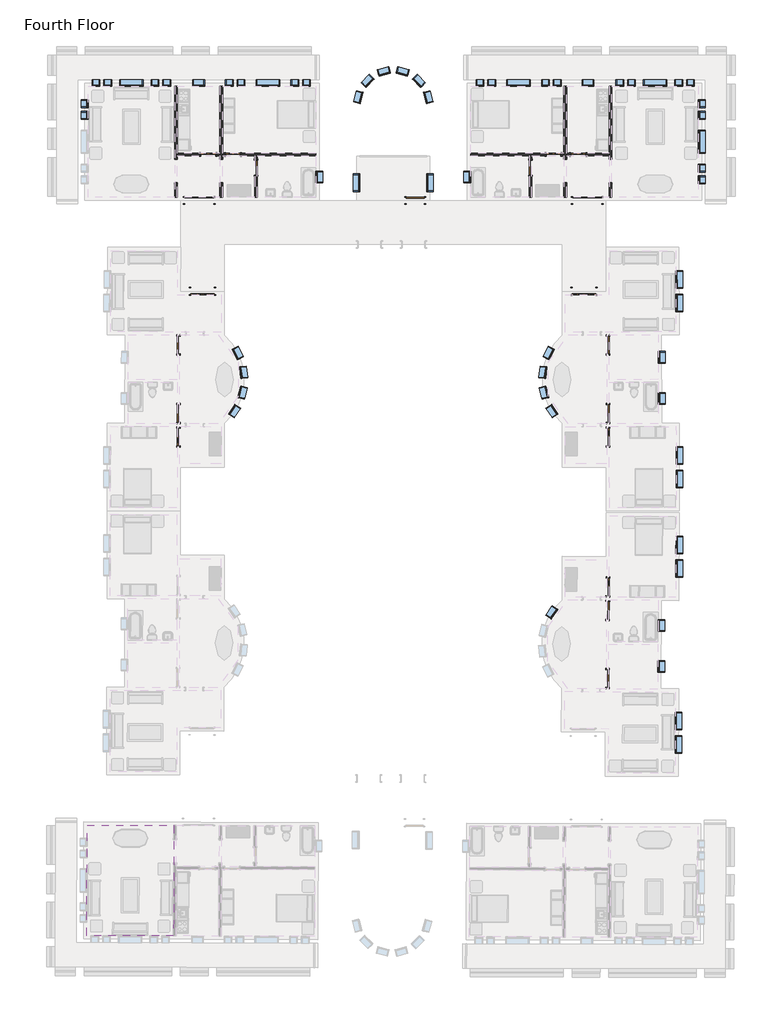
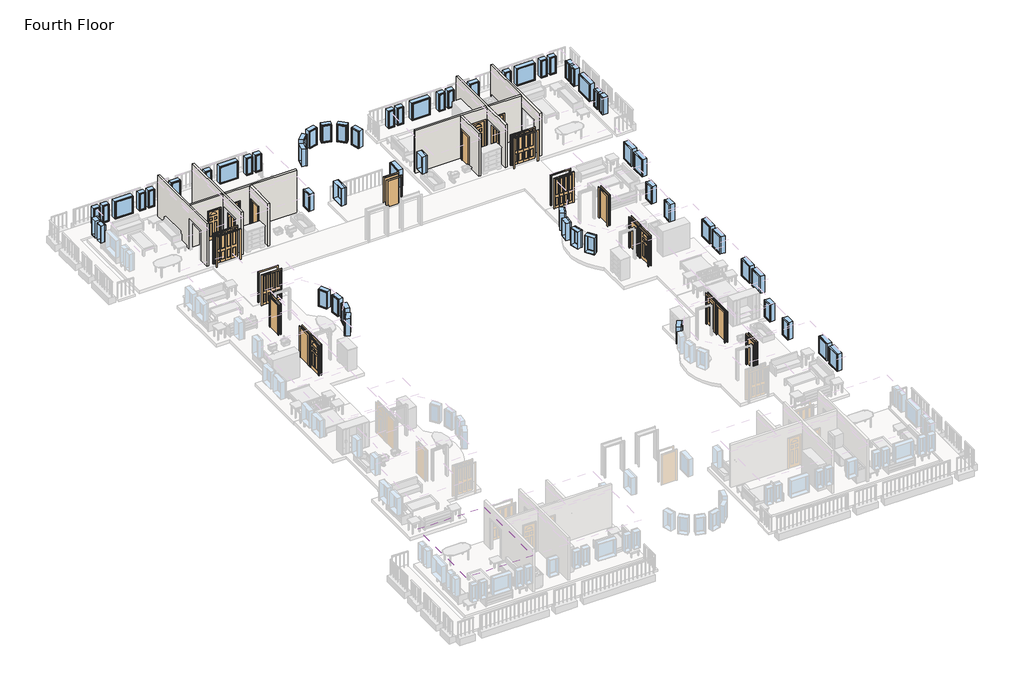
# One storey, part 2 of 8: 60 windows, 20 doors, 8 walls, 1 covering.
"""IFC4 building model written with IfcOpenShell, lengths in millimetres."""

from ifc_helpers import new_model, si_unit, frame, origin, place, context, project, spatial, polyline, outline, extrude, faceted_brep, transform, mapped, element, save
from components import m_bifold_4_panel_1220_x_2134mm_46e1cad3, m_bifold_4_panel_1220_x_2134mm_cde6dea2, m_bifold_4_panel_1525_x_2134mm_1ddae71f, m_bifold_4_panel_1525_x_2134mm_ac598c8b, m_single_decorative_2_0762_x_2134mm_0d0af7cb, m_single_decorative_2_0762_x_2134mm_2fe67c8e, m_single_decorative_2_0915_x_2134mm_cc9a65e4, m_single_decorative_2_0915_x_2134mm_0b11df3f, m_single_flush_0762_x_2134mm_0d89e411, m_single_flush_0762_x_2134mm_a28375c7, m_single_flush_0915_x_2134mm_1eac8bb1, m_single_flush_0915_x_2134mm_ab9b6334, m_single_flush_0915_x_2134mm_08e0827a, m_fixed_0406_x_1220mm_57fee329, m_fixed_0406_x_1220mm_85c28f40, m_fixed_0610_x_1220mm_2c28ef1d, m_fixed_0610_x_1220mm_1ea27827, m_fixed_0915_x_1220mm_bde29121, m_fixed_0915_x_1220mm_2a2509e7, m_fixed_1220_x_1220mm_e08ff7af, m_fixed_1220_x_1220mm_8f5f8ad3

model = new_model("IFC4")

# Units and contexts
model_context = context("Model", 3, world=origin())
ifc_project = project(units=[si_unit("LENGTHUNIT", "METRE", prefix="MILLI")], contexts=[model_context])

# Site, building, storey
site = spatial("IfcSite", under=ifc_project)
building = spatial("IfcBuilding", under=site)
storey = spatial("IfcBuildingStorey", under=building, Name="Fourth Floor", Elevation=9144.0)

# Covering
placement = place(None, origin())
element("IfcCovering", 1, ObjectType="Plain", at=placement, inside=storey, context=model_context, shape_type="SweptSolid", body=[
    extrude(outline(polyline([(-30363.8608487, -35997.2316011), (-30380.4946793, -41743.2075247), (-34884.7258061, -41730.168379), (-34868.0919755, -35984.1924553), (-30363.8608487, -35997.2316011)])), frame((0.0, 0.0, 11734.0), z_axis=(0.0, 0.0, 1.0), x_axis=(1.0, 0.0, 0.0)), (0.0, 0.0, 1.0), 57.0),
])

# Doors
m_bifold_4_panel_1220_x_2134mm_shape = m_bifold_4_panel_1220_x_2134mm_46e1cad3(model_context)
element("IfcDoor", 2, ObjectType="M_Bifold-4 Panel : 1220 x 2134mm", at=placement, inside=storey, context=model_context, shape_type="MappedRepresentation", body=[
    mapped(m_bifold_4_panel_1220_x_2134mm_shape, transform((-28863.3459343, -8240.6820888, 9144.0), x_axis=(-0.9999989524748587, 0.0014474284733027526, 0.0), y_axis=(-0.0014474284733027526, -0.9999989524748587, 0.0), z_axis=(0.0, 0.0, 1.0))),
])
m_bifold_4_panel_1220_x_2134mm_2_shape = m_bifold_4_panel_1220_x_2134mm_cde6dea2(model_context)
element("IfcDoor", 3, ObjectType="M_Bifold-4 Panel : 1220 x 2134mm", at=placement, inside=storey, context=model_context, shape_type="MappedRepresentation", body=[
    mapped(m_bifold_4_panel_1220_x_2134mm_2_shape, transform((-9050.8373063, -8240.6820888, 9144.0), x_axis=(0.9999989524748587, 0.0014474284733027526, 0.0), y_axis=(-0.0014474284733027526, 0.9999989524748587, 0.0), z_axis=(0.0, 0.0, 1.0))),
])
m_bifold_4_panel_1525_x_2134mm_shape = m_bifold_4_panel_1525_x_2134mm_1ddae71f(model_context)
element("IfcDoor", 4, ObjectType="M_Bifold-4 Panel : 1525 x 2134mm", at=placement, inside=storey, context=model_context, shape_type="MappedRepresentation", body=[
    mapped(m_bifold_4_panel_1525_x_2134mm_shape, transform((-8876.0916203, -3514.8811614, 9144.0), x_axis=(1.0, 0.0, 0.0), y_axis=(0.0, 1.0, 0.0), z_axis=(0.0, 0.0, 1.0))),
])
m_bifold_4_panel_1525_x_2134mm_2_shape = m_bifold_4_panel_1525_x_2134mm_ac598c8b(model_context)
element("IfcDoor", 5, ObjectType="M_Bifold-4 Panel : 1525 x 2134mm", at=placement, inside=storey, context=model_context, shape_type="MappedRepresentation", body=[
    mapped(m_bifold_4_panel_1525_x_2134mm_2_shape, transform((-29038.0916203, -3514.8811614, 9144.0), x_axis=(-1.0, 0.0, 0.0), y_axis=(0.0, -1.0, 0.0), z_axis=(0.0, 0.0, 1.0))),
])
m_single_decorative_2_0762_x_2134mm_shape = m_single_decorative_2_0762_x_2134mm_0d0af7cb(model_context)
element("IfcDoor", 6, ObjectType="M_Single-Decorative 2 : 0762 x 2134mm", at=placement, inside=storey, context=model_context, shape_type="MappedRepresentation", body=[
    mapped(m_single_decorative_2_0762_x_2134mm_shape, transform((-9342.3416203, -1138.1311614, 9144.0), x_axis=(-1.0, 0.0, 0.0), y_axis=(0.0, -1.0, 0.0), z_axis=(0.0, 0.0, 1.0))),
])
element("IfcDoor", 7, ObjectType="M_Single-Decorative 2 : 0762 x 2134mm", at=placement, inside=storey, context=model_context, shape_type="MappedRepresentation", body=[
    mapped(m_single_decorative_2_0762_x_2134mm_shape, transform((-27285.0916203, -1138.1311614, 9144.0), x_axis=(-1.0, 0.0, 0.0), y_axis=(0.0, -1.0, 0.0), z_axis=(0.0, 0.0, 1.0))),
])
m_single_decorative_2_0762_x_2134mm_2_shape = m_single_decorative_2_0762_x_2134mm_2fe67c8e(model_context)
element("IfcDoor", 8, ObjectType="M_Single-Decorative 2 : 0762 x 2134mm", at=placement, inside=storey, context=model_context, shape_type="MappedRepresentation", body=[
    mapped(m_single_decorative_2_0762_x_2134mm_2_shape, transform((-10629.0916203, -1138.1311614, 9144.0), x_axis=(1.0, 0.0, 0.0), y_axis=(0.0, 1.0, 0.0), z_axis=(0.0, 0.0, 1.0))),
])
element("IfcDoor", 9, ObjectType="M_Single-Decorative 2 : 0762 x 2134mm", at=placement, inside=storey, context=model_context, shape_type="MappedRepresentation", body=[
    mapped(m_single_decorative_2_0762_x_2134mm_2_shape, transform((-28571.8416203, -1138.1311614, 9144.0), x_axis=(1.0, 0.0, 0.0), y_axis=(0.0, 1.0, 0.0), z_axis=(0.0, 0.0, 1.0))),
])
m_single_decorative_2_0915_x_2134mm_shape = m_single_decorative_2_0915_x_2134mm_cc9a65e4(model_context)
element("IfcDoor", 10, ObjectType="M_Single-Decorative 2 : 0915 x 2134mm", at=placement, inside=storey, context=model_context, shape_type="MappedRepresentation", body=[
    mapped(m_single_decorative_2_0915_x_2134mm_shape, transform((-30117.2933431, -15803.1250115, 9144.0), x_axis=(0.0014474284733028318, 0.9999989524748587, 0.0), y_axis=(-0.9999989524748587, 0.0014474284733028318, 0.0), z_axis=(0.0, 0.0, 1.0))),
])
element("IfcDoor", 11, ObjectType="M_Single-Decorative 2 : 0915 x 2134mm", at=placement, inside=storey, context=model_context, shape_type="MappedRepresentation", body=[
    mapped(m_single_decorative_2_0915_x_2134mm_shape, transform((-7808.1742155, -23599.2312198, 9144.0), x_axis=(-0.004342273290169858, -0.9999905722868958, 0.0), y_axis=(0.9999905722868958, -0.004342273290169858, 0.0), z_axis=(0.0, 0.0, 1.0))),
])
m_single_decorative_2_0915_x_2134mm_2_shape = m_single_decorative_2_0915_x_2134mm_0b11df3f(model_context)
element("IfcDoor", 12, ObjectType="M_Single-Decorative 2 : 0915 x 2134mm", at=placement, inside=storey, context=model_context, shape_type="MappedRepresentation", body=[
    mapped(m_single_decorative_2_0915_x_2134mm_2_shape, transform((-7796.8898976, -15803.1250115, 9144.0), x_axis=(-0.0014474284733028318, 0.9999989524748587, 0.0), y_axis=(-0.9999989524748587, -0.0014474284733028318, 0.0), z_axis=(0.0, 0.0, 1.0))),
])
m_single_flush_0762_x_2134mm_shape = m_single_flush_0762_x_2134mm_0d89e411(model_context)
element("IfcDoor", 13, ObjectType="M_Single-Flush : 0762 x 2134mm", at=placement, inside=storey, context=model_context, shape_type="MappedRepresentation", body=[
    mapped(m_single_flush_0762_x_2134mm_shape, transform((-11819.5916203, -1815.8811614, 9144.0), x_axis=(0.0, 1.0, 0.0), y_axis=(-1.0, 0.0, 0.0), z_axis=(0.0, 0.0, 1.0))),
])
m_single_flush_0762_x_2134mm_2_shape = m_single_flush_0762_x_2134mm_a28375c7(model_context)
element("IfcDoor", 14, ObjectType="M_Single-Flush : 0762 x 2134mm", at=placement, inside=storey, context=model_context, shape_type="MappedRepresentation", body=[
    mapped(m_single_flush_0762_x_2134mm_2_shape, transform((-26094.5916203, -1815.8811614, 9144.0), x_axis=(0.0, 1.0, 0.0), y_axis=(-1.0, 0.0, 0.0), z_axis=(0.0, 0.0, 1.0))),
])
m_single_flush_0915_x_2134mm_shape = m_single_flush_0915_x_2134mm_1eac8bb1(model_context)
element("IfcDoor", 15, ObjectType="M_Single-Flush : 0915 x 2134mm", at=placement, inside=storey, context=model_context, shape_type="MappedRepresentation", body=[
    mapped(m_single_flush_0915_x_2134mm_shape, transform((-17814.0916203, -3514.8811614, 9144.0), x_axis=(1.0, 0.0, 0.0), y_axis=(0.0, 1.0, 0.0), z_axis=(0.0, 0.0, 1.0))),
])
m_single_flush_0915_x_2134mm_2_shape = m_single_flush_0915_x_2134mm_ab9b6334(model_context)
element("IfcDoor", 16, ObjectType="M_Single-Flush : 0915 x 2134mm", at=placement, inside=storey, context=model_context, shape_type="MappedRepresentation", body=[
    mapped(m_single_flush_0915_x_2134mm_2_shape, transform((-7803.7915984, -11034.8800064, 9144.0), x_axis=(-0.0014474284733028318, 0.9999989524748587, 0.0), y_axis=(-0.9999989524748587, -0.0014474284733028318, 0.0), z_axis=(0.0, 0.0, 1.0))),
])
element("IfcDoor", 17, ObjectType="M_Single-Flush : 0915 x 2134mm", at=placement, inside=storey, context=model_context, shape_type="MappedRepresentation", body=[
    mapped(m_single_flush_0915_x_2134mm_2_shape, transform((-30115.5274803, -14583.1262895, 9144.0), x_axis=(-0.0014474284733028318, -0.9999989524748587, 0.0), y_axis=(0.9999989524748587, -0.0014474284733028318, 0.0), z_axis=(0.0, 0.0, 1.0))),
])
element("IfcDoor", 18, ObjectType="M_Single-Flush : 0915 x 2134mm", at=placement, inside=storey, context=model_context, shape_type="MappedRepresentation", body=[
    mapped(m_single_flush_0915_x_2134mm_2_shape, transform((-7813.4717889, -24819.219718, 9144.0), x_axis=(0.004342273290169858, 0.9999905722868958, 0.0), y_axis=(-0.9999905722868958, 0.004342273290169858, 0.0), z_axis=(0.0, 0.0, 1.0))),
])
m_single_flush_0915_x_2134mm_3_shape = m_single_flush_0915_x_2134mm_08e0827a(model_context)
element("IfcDoor", 19, ObjectType="M_Single-Flush : 0915 x 2134mm", at=placement, inside=storey, context=model_context, shape_type="MappedRepresentation", body=[
    mapped(m_single_flush_0915_x_2134mm_3_shape, transform((-7798.6557603, -14583.1262895, 9144.0), x_axis=(0.0014474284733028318, -0.9999989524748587, 0.0), y_axis=(0.9999989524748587, 0.0014474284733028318, 0.0), z_axis=(0.0, 0.0, 1.0))),
])
element("IfcDoor", 20, ObjectType="M_Single-Flush : 0915 x 2134mm", at=placement, inside=storey, context=model_context, shape_type="MappedRepresentation", body=[
    mapped(m_single_flush_0915_x_2134mm_3_shape, transform((-30110.3916422, -11034.8800064, 9144.0), x_axis=(0.0014474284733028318, 0.9999989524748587, 0.0), y_axis=(-0.9999989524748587, 0.0014474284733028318, 0.0), z_axis=(0.0, 0.0, 1.0))),
])
element("IfcDoor", 21, ObjectType="M_Single-Flush : 0915 x 2134mm", at=placement, inside=storey, context=model_context, shape_type="MappedRepresentation", body=[
    mapped(m_single_flush_0915_x_2134mm_3_shape, transform((-7828.8792601, -28367.4362661, 9144.0), x_axis=(-0.004342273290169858, -0.9999905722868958, 0.0), y_axis=(0.9999905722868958, -0.004342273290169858, 0.0), z_axis=(0.0, 0.0, 1.0))),
])

# Walls
element("IfcWall", 22, ObjectType="Interior - 135mm Partition (2-hr)", at=placement, inside=storey, context=model_context, shape_type="Brep", body=[
    faceted_brep([(-7733.0916203, 2406.1188386, 9144.0), (-7733.0916203, -1070.3811614, 9144.0), (-7733.0916203, -1205.8811614, 9144.0), (-7733.0916203, -1380.8811614, 9144.0), (-7733.0916203, -1380.8811614, 11278.0), (-7733.0916203, -2600.8811614, 11278.0), (-7733.0916203, -2600.8811614, 9144.0), (-7733.0916203, -3339.8811614, 9144.0), (-7733.0916203, -3339.8811614, 12192.0), (-7733.0916203, -1205.8811614, 12192.0), (-7733.0916203, -1070.3811614, 12192.0), (-7733.0916203, 2406.1188386, 12192.0), (-7597.5916203, -1380.8811614, 11278.0), (-7597.5916203, -1380.8811614, 9144.0), (-7597.5916203, 2406.1188386, 9144.0), (-7597.5916203, 2406.1188386, 12192.0), (-7597.5916203, -3339.8811614, 12192.0), (-7597.5916203, -3339.8811614, 9144.0), (-7597.5916203, -2600.8811614, 9144.0), (-7597.5916203, -2600.8811614, 11278.0)], [[[0, 1, 2, 3, 4, 5, 6, 7, 8, 9, 10, 11]], [[12, 13, 14, 15, 16, 17, 18, 19]], [[18, 17, 7, 6]], [[14, 13, 3, 2, 1, 0]], [[11, 10, 9, 8, 16, 15]], [[6, 5, 19, 18]], [[4, 3, 13, 12]], [[5, 4, 12, 19]], [[8, 7, 17, 16]], [[0, 11, 15, 14]]]),
])
element("IfcWall", 23, ObjectType="Interior - 135mm Partition (2-hr)", at=placement, inside=storey, context=model_context, shape_type="Brep", body=[
    faceted_brep([(-10086.8416203, -2600.8811614, 11278.0), (-10086.8416203, -2600.8811614, 9144.0), (-10086.8416203, -3339.8811614, 9144.0), (-10086.8416203, -3339.8811614, 12192.0), (-10086.8416203, -1205.8811614, 12192.0), (-10086.8416203, -1070.3811614, 12192.0), (-10086.8416203, 2406.1188386, 12192.0), (-10086.8416203, 2406.1188386, 9144.0), (-10086.8416203, -1070.3811614, 9144.0), (-10086.8416203, -1205.8811614, 9144.0), (-10086.8416203, -1380.8811614, 9144.0), (-10086.8416203, -1380.8811614, 11278.0), (-9951.3416203, -3339.8811614, 9144.0), (-9951.3416203, -2600.8811614, 9144.0), (-9951.3416203, -2600.8811614, 11278.0), (-9951.3416203, -1380.8811614, 11278.0), (-9951.3416203, -1380.8811614, 9144.0), (-9951.3416203, -1205.8811614, 9144.0), (-9951.3416203, -1070.3811614, 9144.0), (-9951.3416203, 2406.1188386, 9144.0), (-9951.3416203, 2406.1188386, 12192.0), (-9951.3416203, -1070.3811614, 12192.0), (-9951.3416203, -1205.8811614, 12192.0), (-9951.3416203, -3339.8811614, 12192.0)], [[[0, 1, 2, 3, 4, 5, 6, 7, 8, 9, 10, 11]], [[12, 13, 14, 15, 16, 17, 18, 19, 20, 21, 22, 23]], [[2, 1, 13, 12]], [[10, 9, 8, 7, 19, 18, 17, 16]], [[6, 5, 4, 3, 23, 22, 21, 20]], [[16, 15, 11, 10]], [[14, 13, 1, 0]], [[15, 14, 0, 11]], [[3, 2, 12, 23]], [[7, 6, 20, 19]]]),
])
element("IfcWall", 24, ObjectType="Interior - 135mm Partition (2-hr)", at=placement, inside=storey, context=model_context, shape_type="Brep", body=[
    faceted_brep([(-9723.3416203, -1205.8811614, 9144.0), (-9723.3416203, -1205.8811614, 11278.0), (-8961.3416203, -1205.8811614, 11278.0), (-8961.3416203, -1205.8811614, 9144.0), (-7733.0916203, -1205.8811614, 9144.0), (-7733.0916203, -1205.8811614, 12192.0), (-9951.3416203, -1205.8811614, 12192.0), (-9951.3416203, -1205.8811614, 9144.0), (-9723.3416203, -1070.3811614, 11278.0), (-9723.3416203, -1070.3811614, 9144.0), (-9951.3416203, -1070.3811614, 9144.0), (-9951.3416203, -1070.3811614, 12192.0), (-7733.0916203, -1070.3811614, 12192.0), (-7733.0916203, -1070.3811614, 9144.0), (-8961.3416203, -1070.3811614, 9144.0), (-8961.3416203, -1070.3811614, 11278.0)], [[[0, 1, 2, 3, 4, 5, 6, 7]], [[8, 9, 10, 11, 12, 13, 14, 15]], [[9, 0, 7, 10]], [[3, 14, 13, 4]], [[5, 12, 11, 6]], [[1, 0, 9, 8]], [[2, 1, 8, 15]], [[3, 2, 15, 14]], [[5, 4, 13, 12]], [[7, 6, 11, 10]]]),
    faceted_brep([(-10248.0916203, -1205.8811614, 11278.0), (-10248.0916203, -1205.8811614, 9144.0), (-10086.8416203, -1205.8811614, 9144.0), (-10086.8416203, -1205.8811614, 12192.0), (-11751.8416203, -1205.8811614, 12192.0), (-11887.3416203, -1205.8811614, 12192.0), (-14935.3416203, -1205.8811614, 12192.0), (-14935.3416203, -1205.8811614, 9144.0), (-11887.3416203, -1205.8811614, 9144.0), (-11751.8416203, -1205.8811614, 9144.0), (-11010.0916203, -1205.8811614, 9144.0), (-11010.0916203, -1205.8811614, 11278.0), (-10248.0916203, -1070.3811614, 9144.0), (-10248.0916203, -1070.3811614, 11278.0), (-11010.0916203, -1070.3811614, 11278.0), (-11010.0916203, -1070.3811614, 9144.0), (-14935.3416203, -1070.3811614, 9144.0), (-14935.3416203, -1070.3811614, 12192.0), (-10086.8416203, -1070.3811614, 12192.0), (-10086.8416203, -1070.3811614, 9144.0)], [[[0, 1, 2, 3, 4, 5, 6, 7, 8, 9, 10, 11]], [[12, 13, 14, 15, 16, 17, 18, 19]], [[1, 12, 19, 2]], [[15, 10, 9, 8, 7, 16]], [[17, 6, 5, 4, 3, 18]], [[13, 12, 1, 0]], [[14, 13, 0, 11]], [[15, 14, 11, 10]], [[7, 6, 17, 16]], [[3, 2, 19, 18]]]),
])
element("IfcWall", 25, ObjectType="Interior - 135mm Partition (2-hr)", at=placement, inside=storey, context=model_context, shape_type="SweptSolid", body=[
    extrude(outline(polyline([(-1205.8811614, 9144.0), (-1434.8811614, 9144.0), (-1434.8811614, 11278.0), (-2196.8811614, 11278.0), (-2196.8811614, 9144.0), (-3339.8811614, 9144.0), (-3339.8811614, 12192.0), (-1205.8811614, 12192.0), (-1205.8811614, 9144.0)])), frame((-11887.3416203, 0.0, 0.0), z_axis=(1.0, 0.0, 0.0), x_axis=(0.0, 1.0, 0.0)), (0.0, 0.0, 1.0), 135.5),
])
element("IfcWall", 26, ObjectType="Interior - 135mm Partition (2-hr)", at=placement, inside=storey, context=model_context, shape_type="Brep", body=[
    faceted_brep([(-30316.5916203, 2406.1188386, 9144.0), (-30316.5916203, -1380.8811614, 9144.0), (-30316.5916203, -1380.8811614, 11278.0), (-30316.5916203, -2600.8811614, 11278.0), (-30316.5916203, -2600.8811614, 9144.0), (-30316.5916203, -3339.8811614, 9144.0), (-30316.5916203, -3339.8811614, 12192.0), (-30316.5916203, 2406.1188386, 12192.0), (-30181.0916203, -1380.8811614, 11278.0), (-30181.0916203, -1380.8811614, 9144.0), (-30181.0916203, -1205.8811614, 9144.0), (-30181.0916203, -1070.3811614, 9144.0), (-30181.0916203, 2406.1188386, 9144.0), (-30181.0916203, 2406.1188386, 12192.0), (-30181.0916203, -1070.3811614, 12192.0), (-30181.0916203, -1205.8811614, 12192.0), (-30181.0916203, -3339.8811614, 12192.0), (-30181.0916203, -3339.8811614, 9144.0), (-30181.0916203, -2600.8811614, 9144.0), (-30181.0916203, -2600.8811614, 11278.0)], [[[0, 1, 2, 3, 4, 5, 6, 7]], [[8, 9, 10, 11, 12, 13, 14, 15, 16, 17, 18, 19]], [[18, 17, 5, 4]], [[12, 11, 10, 9, 1, 0]], [[7, 6, 16, 15, 14, 13]], [[4, 3, 19, 18]], [[2, 1, 9, 8]], [[3, 2, 8, 19]], [[0, 7, 13, 12]], [[6, 5, 17, 16]]]),
])
element("IfcWall", 27, ObjectType="Interior - 135mm Partition (2-hr)", at=placement, inside=storey, context=model_context, shape_type="Brep", body=[
    faceted_brep([(-27962.8416203, -2600.8811614, 11278.0), (-27962.8416203, -2600.8811614, 9144.0), (-27962.8416203, -3339.8811614, 9144.0), (-27962.8416203, -3339.8811614, 12192.0), (-27962.8416203, -1205.8811614, 12192.0), (-27962.8416203, -1070.3811614, 12192.0), (-27962.8416203, 2406.1188386, 12192.0), (-27962.8416203, 2406.1188386, 9144.0), (-27962.8416203, -1070.3811614, 9144.0), (-27962.8416203, -1205.8811614, 9144.0), (-27962.8416203, -1380.8811614, 9144.0), (-27962.8416203, -1380.8811614, 11278.0), (-27827.3416203, -3339.8811614, 9144.0), (-27827.3416203, -2600.8811614, 9144.0), (-27827.3416203, -2600.8811614, 11278.0), (-27827.3416203, -1380.8811614, 11278.0), (-27827.3416203, -1380.8811614, 9144.0), (-27827.3416203, -1205.8811614, 9144.0), (-27827.3416203, -1070.3811614, 9144.0), (-27827.3416203, 2406.1188386, 9144.0), (-27827.3416203, 2406.1188386, 12192.0), (-27827.3416203, -1070.3811614, 12192.0), (-27827.3416203, -1205.8811614, 12192.0), (-27827.3416203, -3339.8811614, 12192.0)], [[[0, 1, 2, 3, 4, 5, 6, 7, 8, 9, 10, 11]], [[12, 13, 14, 15, 16, 17, 18, 19, 20, 21, 22, 23]], [[2, 1, 13, 12]], [[10, 9, 8, 7, 19, 18, 17, 16]], [[6, 5, 4, 3, 23, 22, 21, 20]], [[16, 15, 11, 10]], [[14, 13, 1, 0]], [[15, 14, 0, 11]], [[7, 6, 20, 19]], [[3, 2, 12, 23]]]),
])
element("IfcWall", 28, ObjectType="Interior - 135mm Partition (2-hr)", at=placement, inside=storey, context=model_context, shape_type="Brep", body=[
    faceted_brep([(-30181.0916203, -1070.3811614, 9144.0), (-30181.0916203, -1070.3811614, 12192.0), (-27962.8416203, -1070.3811614, 12192.0), (-27962.8416203, -1070.3811614, 9144.0), (-28190.8416203, -1070.3811614, 9144.0), (-28190.8416203, -1070.3811614, 11278.0), (-28952.8416203, -1070.3811614, 11278.0), (-28952.8416203, -1070.3811614, 9144.0), (-30181.0916203, -1205.8811614, 12192.0), (-30181.0916203, -1205.8811614, 9144.0), (-28952.8416203, -1205.8811614, 9144.0), (-28952.8416203, -1205.8811614, 11278.0), (-28190.8416203, -1205.8811614, 11278.0), (-28190.8416203, -1205.8811614, 9144.0), (-27962.8416203, -1205.8811614, 9144.0), (-27962.8416203, -1205.8811614, 12192.0)], [[[0, 1, 2, 3, 4, 5, 6, 7]], [[8, 9, 10, 11, 12, 13, 14, 15]], [[9, 0, 7, 10]], [[13, 4, 3, 14]], [[1, 8, 15, 2]], [[1, 0, 9, 8]], [[3, 2, 15, 14]], [[5, 4, 13, 12]], [[6, 5, 12, 11]], [[7, 6, 11, 10]]]),
    faceted_brep([(-27666.0916203, -1070.3811614, 11278.0), (-27666.0916203, -1070.3811614, 9144.0), (-27827.3416203, -1070.3811614, 9144.0), (-27827.3416203, -1070.3811614, 12192.0), (-22978.8416203, -1070.3811614, 12192.0), (-22978.8416203, -1070.3811614, 9144.0), (-26904.0916203, -1070.3811614, 9144.0), (-26904.0916203, -1070.3811614, 11278.0), (-27666.0916203, -1205.8811614, 9144.0), (-27666.0916203, -1205.8811614, 11278.0), (-26904.0916203, -1205.8811614, 11278.0), (-26904.0916203, -1205.8811614, 9144.0), (-26162.3416203, -1205.8811614, 9144.0), (-26026.8416203, -1205.8811614, 9144.0), (-22978.8416203, -1205.8811614, 9144.0), (-22978.8416203, -1205.8811614, 12192.0), (-26026.8416203, -1205.8811614, 12192.0), (-26162.3416203, -1205.8811614, 12192.0), (-27827.3416203, -1205.8811614, 12192.0), (-27827.3416203, -1205.8811614, 9144.0)], [[[0, 1, 2, 3, 4, 5, 6, 7]], [[8, 9, 10, 11, 12, 13, 14, 15, 16, 17, 18, 19]], [[1, 8, 19, 2]], [[11, 6, 5, 14, 13, 12]], [[15, 4, 3, 18, 17, 16]], [[3, 2, 19, 18]], [[9, 8, 1, 0]], [[10, 9, 0, 7]], [[11, 10, 7, 6]], [[5, 4, 15, 14]]]),
])
element("IfcWall", 29, ObjectType="Interior - 135mm Partition (2-hr)", at=placement, inside=storey, context=model_context, shape_type="SweptSolid", body=[
    extrude(outline(polyline([(-1205.8811614, 9144.0), (-1434.8811614, 9144.0), (-1434.8811614, 11278.0), (-2196.8811614, 11278.0), (-2196.8811614, 9144.0), (-3339.8811614, 9144.0), (-3339.8811614, 12192.0), (-1205.8811614, 12192.0), (-1205.8811614, 9144.0)])), frame((-26162.3416203, 0.0, 0.0), z_axis=(1.0, 0.0, 0.0), x_axis=(0.0, 1.0, 0.0)), (0.0, 0.0, 1.0), 135.5),
])

# Windows
m_fixed_0406_x_1220mm_shape = m_fixed_0406_x_1220mm_57fee329(model_context)
element("IfcWindow", 30, ObjectType="M_Fixed : 0406 x 1220mm", at=placement, inside=storey, context=model_context, shape_type="MappedRepresentation", body=[
    mapped(m_fixed_0406_x_1220mm_shape, transform((-14450.3416203, 2594.1188386, 9144.0), x_axis=(-1.0, 0.0, 0.0), y_axis=(0.0, -1.0, 0.0), z_axis=(0.0, 0.0, 1.0))),
])
element("IfcWindow", 31, ObjectType="M_Fixed : 0406 x 1220mm", at=placement, inside=storey, context=model_context, shape_type="MappedRepresentation", body=[
    mapped(m_fixed_0406_x_1220mm_shape, transform((-13840.3416203, 2594.1188386, 9144.0), x_axis=(-1.0, 0.0, 0.0), y_axis=(0.0, -1.0, 0.0), z_axis=(0.0, 0.0, 1.0))),
])
element("IfcWindow", 32, ObjectType="M_Fixed : 0406 x 1220mm", at=placement, inside=storey, context=model_context, shape_type="MappedRepresentation", body=[
    mapped(m_fixed_0406_x_1220mm_shape, transform((-7183.3416203, 2594.1188386, 9144.0), x_axis=(-1.0, 0.0, 0.0), y_axis=(0.0, -1.0, 0.0), z_axis=(0.0, 0.0, 1.0))),
])
element("IfcWindow", 33, ObjectType="M_Fixed : 0406 x 1220mm", at=placement, inside=storey, context=model_context, shape_type="MappedRepresentation", body=[
    mapped(m_fixed_0406_x_1220mm_shape, transform((-6573.3416203, 2594.1188386, 9144.0), x_axis=(-1.0, 0.0, 0.0), y_axis=(0.0, -1.0, 0.0), z_axis=(0.0, 0.0, 1.0))),
])
element("IfcWindow", 34, ObjectType="M_Fixed : 0406 x 1220mm", at=placement, inside=storey, context=model_context, shape_type="MappedRepresentation", body=[
    mapped(m_fixed_0406_x_1220mm_shape, transform((-2905.3416203, 1514.1188386, 9144.0), x_axis=(0.0, 1.0, 0.0), y_axis=(-1.0, 0.0, 0.0), z_axis=(0.0, 0.0, 1.0))),
])
element("IfcWindow", 35, ObjectType="M_Fixed : 0406 x 1220mm", at=placement, inside=storey, context=model_context, shape_type="MappedRepresentation", body=[
    mapped(m_fixed_0406_x_1220mm_shape, transform((-2905.3416203, 904.1188386, 9144.0), x_axis=(0.0, 1.0, 0.0), y_axis=(-1.0, 0.0, 0.0), z_axis=(0.0, 0.0, 1.0))),
])
element("IfcWindow", 36, ObjectType="M_Fixed : 0406 x 1220mm", at=placement, inside=storey, context=model_context, shape_type="MappedRepresentation", body=[
    mapped(m_fixed_0406_x_1220mm_shape, transform((-27477.8416203, 2594.1188386, 9144.0), x_axis=(-1.0, 0.0, 0.0), y_axis=(0.0, -1.0, 0.0), z_axis=(0.0, 0.0, 1.0))),
])
element("IfcWindow", 37, ObjectType="M_Fixed : 0406 x 1220mm", at=placement, inside=storey, context=model_context, shape_type="MappedRepresentation", body=[
    mapped(m_fixed_0406_x_1220mm_shape, transform((-26867.8416203, 2594.1188386, 9144.0), x_axis=(-1.0, 0.0, 0.0), y_axis=(0.0, -1.0, 0.0), z_axis=(0.0, 0.0, 1.0))),
])
element("IfcWindow", 38, ObjectType="M_Fixed : 0406 x 1220mm", at=placement, inside=storey, context=model_context, shape_type="MappedRepresentation", body=[
    mapped(m_fixed_0406_x_1220mm_shape, transform((-34406.5916203, 2594.1188386, 9144.0), x_axis=(-1.0, 0.0, 0.0), y_axis=(0.0, -1.0, 0.0), z_axis=(0.0, 0.0, 1.0))),
])
element("IfcWindow", 39, ObjectType="M_Fixed : 0406 x 1220mm", at=placement, inside=storey, context=model_context, shape_type="MappedRepresentation", body=[
    mapped(m_fixed_0406_x_1220mm_shape, transform((-33796.5916203, 2594.1188386, 9144.0), x_axis=(-1.0, 0.0, 0.0), y_axis=(0.0, -1.0, 0.0), z_axis=(0.0, 0.0, 1.0))),
])
m_fixed_0406_x_1220mm_2_shape = m_fixed_0406_x_1220mm_85c28f40(model_context)
element("IfcWindow", 40, ObjectType="M_Fixed : 0406 x 1220mm", at=placement, inside=storey, context=model_context, shape_type="MappedRepresentation", body=[
    mapped(m_fixed_0406_x_1220mm_2_shape, transform((-10436.3416203, 2594.1188386, 9144.0), x_axis=(1.0, 0.0, 0.0), y_axis=(0.0, 1.0, 0.0), z_axis=(0.0, 0.0, 1.0))),
])
element("IfcWindow", 41, ObjectType="M_Fixed : 0406 x 1220mm", at=placement, inside=storey, context=model_context, shape_type="MappedRepresentation", body=[
    mapped(m_fixed_0406_x_1220mm_2_shape, transform((-11046.3416203, 2594.1188386, 9144.0), x_axis=(1.0, 0.0, 0.0), y_axis=(0.0, 1.0, 0.0), z_axis=(0.0, 0.0, 1.0))),
])
element("IfcWindow", 42, ObjectType="M_Fixed : 0406 x 1220mm", at=placement, inside=storey, context=model_context, shape_type="MappedRepresentation", body=[
    mapped(m_fixed_0406_x_1220mm_2_shape, transform((-3507.5916203, 2594.1188386, 9144.0), x_axis=(1.0, 0.0, 0.0), y_axis=(0.0, 1.0, 0.0), z_axis=(0.0, 0.0, 1.0))),
])
element("IfcWindow", 43, ObjectType="M_Fixed : 0406 x 1220mm", at=placement, inside=storey, context=model_context, shape_type="MappedRepresentation", body=[
    mapped(m_fixed_0406_x_1220mm_2_shape, transform((-4117.5916203, 2594.1188386, 9144.0), x_axis=(1.0, 0.0, 0.0), y_axis=(0.0, 1.0, 0.0), z_axis=(0.0, 0.0, 1.0))),
])
element("IfcWindow", 44, ObjectType="M_Fixed : 0406 x 1220mm", at=placement, inside=storey, context=model_context, shape_type="MappedRepresentation", body=[
    mapped(m_fixed_0406_x_1220mm_2_shape, transform((-2905.3416203, -2447.8811614, 9144.0), x_axis=(0.0, -1.0, 0.0), y_axis=(1.0, 0.0, 0.0), z_axis=(0.0, 0.0, 1.0))),
])
element("IfcWindow", 45, ObjectType="M_Fixed : 0406 x 1220mm", at=placement, inside=storey, context=model_context, shape_type="MappedRepresentation", body=[
    mapped(m_fixed_0406_x_1220mm_2_shape, transform((-2905.3416203, -1837.8811614, 9144.0), x_axis=(0.0, -1.0, 0.0), y_axis=(1.0, 0.0, 0.0), z_axis=(0.0, 0.0, 1.0))),
])
element("IfcWindow", 46, ObjectType="M_Fixed : 0406 x 1220mm", at=placement, inside=storey, context=model_context, shape_type="MappedRepresentation", body=[
    mapped(m_fixed_0406_x_1220mm_2_shape, transform((-23463.8416203, 2594.1188386, 9144.0), x_axis=(1.0, 0.0, 0.0), y_axis=(0.0, 1.0, 0.0), z_axis=(0.0, 0.0, 1.0))),
])
element("IfcWindow", 47, ObjectType="M_Fixed : 0406 x 1220mm", at=placement, inside=storey, context=model_context, shape_type="MappedRepresentation", body=[
    mapped(m_fixed_0406_x_1220mm_2_shape, transform((-24073.8416203, 2594.1188386, 9144.0), x_axis=(1.0, 0.0, 0.0), y_axis=(0.0, 1.0, 0.0), z_axis=(0.0, 0.0, 1.0))),
])
element("IfcWindow", 48, ObjectType="M_Fixed : 0406 x 1220mm", at=placement, inside=storey, context=model_context, shape_type="MappedRepresentation", body=[
    mapped(m_fixed_0406_x_1220mm_2_shape, transform((-30730.8416203, 2594.1188386, 9144.0), x_axis=(1.0, 0.0, 0.0), y_axis=(0.0, 1.0, 0.0), z_axis=(0.0, 0.0, 1.0))),
])
element("IfcWindow", 49, ObjectType="M_Fixed : 0406 x 1220mm", at=placement, inside=storey, context=model_context, shape_type="MappedRepresentation", body=[
    mapped(m_fixed_0406_x_1220mm_2_shape, transform((-31340.8416203, 2594.1188386, 9144.0), x_axis=(1.0, 0.0, 0.0), y_axis=(0.0, 1.0, 0.0), z_axis=(0.0, 0.0, 1.0))),
])
element("IfcWindow", 50, ObjectType="M_Fixed : 0406 x 1220mm", at=placement, inside=storey, context=model_context, shape_type="MappedRepresentation", body=[
    mapped(m_fixed_0406_x_1220mm_2_shape, transform((-35008.8416203, 1514.1188386, 9144.0), x_axis=(0.0, 1.0, 0.0), y_axis=(-1.0, 0.0, 0.0), z_axis=(0.0, 0.0, 1.0))),
])
element("IfcWindow", 51, ObjectType="M_Fixed : 0406 x 1220mm", at=placement, inside=storey, context=model_context, shape_type="MappedRepresentation", body=[
    mapped(m_fixed_0406_x_1220mm_2_shape, transform((-35008.8416203, 904.1188386, 9144.0), x_axis=(0.0, 1.0, 0.0), y_axis=(-1.0, 0.0, 0.0), z_axis=(0.0, 0.0, 1.0))),
])
m_fixed_0610_x_1220mm_shape = m_fixed_0610_x_1220mm_2c28ef1d(model_context)
element("IfcWindow", 52, ObjectType="M_Fixed : 0610 x 1220mm", at=placement, inside=storey, context=model_context, shape_type="MappedRepresentation", body=[
    mapped(m_fixed_0610_x_1220mm_shape, transform((-8842.1916203, 2594.1188386, 9144.0), x_axis=(-1.0, 0.0, 0.0), y_axis=(0.0, -1.0, 0.0), z_axis=(0.0, 0.0, 1.0))),
])
element("IfcWindow", 53, ObjectType="M_Fixed : 0610 x 1220mm", at=placement, inside=storey, context=model_context, shape_type="MappedRepresentation", body=[
    mapped(m_fixed_0610_x_1220mm_shape, transform((-15123.3416203, -2294.8811614, 9144.0), x_axis=(0.0, -1.0, 0.0), y_axis=(1.0, 0.0, 0.0), z_axis=(0.0, 0.0, 1.0))),
])
element("IfcWindow", 54, ObjectType="M_Fixed : 0610 x 1220mm", at=placement, inside=storey, context=model_context, shape_type="MappedRepresentation", body=[
    mapped(m_fixed_0610_x_1220mm_shape, transform((-20788.0201619, 1852.7146627, 9144.0), x_axis=(-0.2588190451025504, -0.9659258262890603, 0.0), y_axis=(0.9659258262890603, -0.2588190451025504, 0.0), z_axis=(0.0, 0.0, 1.0))),
])
element("IfcWindow", 55, ObjectType="M_Fixed : 0610 x 1220mm", at=placement, inside=storey, context=model_context, shape_type="MappedRepresentation", body=[
    mapped(m_fixed_0610_x_1220mm_shape, transform((-19447.6874444, 3193.0473802, 9144.0), x_axis=(-0.9659258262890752, -0.2588190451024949, 0.0), y_axis=(0.2588190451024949, -0.9659258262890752, 0.0), z_axis=(0.0, 0.0, 1.0))),
])
element("IfcWindow", 56, ObjectType="M_Fixed : 0610 x 1220mm", at=placement, inside=storey, context=model_context, shape_type="MappedRepresentation", body=[
    mapped(m_fixed_0610_x_1220mm_shape, transform((-20297.4243378, 2702.4515561, 9144.0), x_axis=(-0.707106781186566, -0.7071067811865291, 0.0), y_axis=(0.7071067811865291, -0.707106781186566, 0.0), z_axis=(0.0, 0.0, 1.0))),
])
element("IfcWindow", 57, ObjectType="M_Fixed : 0610 x 1220mm", at=placement, inside=storey, context=model_context, shape_type="MappedRepresentation", body=[
    mapped(m_fixed_0610_x_1220mm_shape, transform((-10890.7718819, -11438.4303335, 9144.0), x_axis=(-0.4506702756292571, -0.8926904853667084, 0.0), y_axis=(0.8926904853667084, -0.4506702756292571, 0.0), z_axis=(0.0, 0.0, 1.0))),
])
element("IfcWindow", 58, ObjectType="M_Fixed : 0610 x 1220mm", at=placement, inside=storey, context=model_context, shape_type="MappedRepresentation", body=[
    mapped(m_fixed_0610_x_1220mm_shape, transform((-11196.3470359, -12451.3940589, 9144.0), x_axis=(-0.11817340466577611, -0.9929929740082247, 0.0), y_axis=(0.9929929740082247, -0.11817340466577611, 0.0), z_axis=(0.0, 0.0, 1.0))),
])
element("IfcWindow", 59, ObjectType="M_Fixed : 0610 x 1220mm", at=placement, inside=storey, context=model_context, shape_type="MappedRepresentation", body=[
    mapped(m_fixed_0610_x_1220mm_shape, transform((-27195.6619811, -14479.206252, 9144.0), x_axis=(0.5477575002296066, 0.8366371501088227, 0.0), y_axis=(-0.8366371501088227, 0.5477575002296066, 0.0), z_axis=(0.0, 0.0, 1.0))),
])
element("IfcWindow", 60, ObjectType="M_Fixed : 0610 x 1220mm", at=placement, inside=storey, context=model_context, shape_type="MappedRepresentation", body=[
    mapped(m_fixed_0610_x_1220mm_shape, transform((-26778.8680979, -13507.3765282, 9144.0), x_axis=(0.22857692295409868, 0.9735258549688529, 0.0), y_axis=(-0.9735258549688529, 0.22857692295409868, 0.0), z_axis=(0.0, 0.0, 1.0))),
])
element("IfcWindow", 61, ObjectType="M_Fixed : 0610 x 1220mm", at=placement, inside=storey, context=model_context, shape_type="MappedRepresentation", body=[
    mapped(m_fixed_0610_x_1220mm_shape, transform((-5008.2557133, -25604.6081373, 9144.0), x_axis=(0.004342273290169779, 0.9999905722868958, 0.0), y_axis=(-0.9999905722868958, 0.004342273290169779, 0.0), z_axis=(0.0, 0.0, 1.0))),
])
element("IfcWindow", 62, ObjectType="M_Fixed : 0610 x 1220mm", at=placement, inside=storey, context=model_context, shape_type="MappedRepresentation", body=[
    mapped(m_fixed_0610_x_1220mm_shape, transform((-5017.5203876, -27738.1880223, 9144.0), x_axis=(0.004342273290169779, 0.9999905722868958, 0.0), y_axis=(-0.9999905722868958, 0.004342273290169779, 0.0), z_axis=(0.0, 0.0, 1.0))),
])
element("IfcWindow", 63, ObjectType="M_Fixed : 0610 x 1220mm", at=placement, inside=storey, context=model_context, shape_type="MappedRepresentation", body=[
    mapped(m_fixed_0610_x_1220mm_shape, transform((-10733.6258869, -24914.686736, 9144.0), x_axis=(-0.5501771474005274, -0.835047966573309, 0.0), y_axis=(0.835047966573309, -0.5501771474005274, 0.0), z_axis=(0.0, 0.0, 1.0))),
])
m_fixed_0610_x_1220mm_2_shape = m_fixed_0610_x_1220mm_1ea27827(model_context)
element("IfcWindow", 64, ObjectType="M_Fixed : 0610 x 1220mm", at=placement, inside=storey, context=model_context, shape_type="MappedRepresentation", body=[
    mapped(m_fixed_0610_x_1220mm_2_shape, transform((-17126.1630788, 1852.7146627, 9144.0), x_axis=(0.2588190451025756, -0.9659258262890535, 0.0), y_axis=(0.9659258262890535, 0.2588190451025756, 0.0), z_axis=(0.0, 0.0, 1.0))),
])
element("IfcWindow", 65, ObjectType="M_Fixed : 0610 x 1220mm", at=placement, inside=storey, context=model_context, shape_type="MappedRepresentation", body=[
    mapped(m_fixed_0610_x_1220mm_2_shape, transform((-18466.4957962, 3193.0473802, 9144.0), x_axis=(0.9659258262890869, -0.2588190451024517, 0.0), y_axis=(0.2588190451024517, 0.9659258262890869, 0.0), z_axis=(0.0, 0.0, 1.0))),
])
element("IfcWindow", 66, ObjectType="M_Fixed : 0610 x 1220mm", at=placement, inside=storey, context=model_context, shape_type="MappedRepresentation", body=[
    mapped(m_fixed_0610_x_1220mm_2_shape, transform((-17616.7589029, 2702.4515561, 9144.0), x_axis=(0.7071067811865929, -0.7071067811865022, 0.0), y_axis=(0.7071067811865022, 0.7071067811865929, 0.0), z_axis=(0.0, 0.0, 1.0))),
])
element("IfcWindow", 67, ObjectType="M_Fixed : 0610 x 1220mm", at=placement, inside=storey, context=model_context, shape_type="MappedRepresentation", body=[
    mapped(m_fixed_0610_x_1220mm_2_shape, transform((-4991.1778541, -13805.8618518, 9144.0), x_axis=(0.0014474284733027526, -0.9999989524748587, 0.0), y_axis=(0.9999989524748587, 0.0014474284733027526, 0.0), z_axis=(0.0, 0.0, 1.0))),
])
element("IfcWindow", 68, ObjectType="M_Fixed : 0610 x 1220mm", at=placement, inside=storey, context=model_context, shape_type="MappedRepresentation", body=[
    mapped(m_fixed_0610_x_1220mm_2_shape, transform((-4994.2660875, -11672.2640868, 9144.0), x_axis=(0.0014474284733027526, -0.9999989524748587, 0.0), y_axis=(0.9999989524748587, 0.0014474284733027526, 0.0), z_axis=(0.0, 0.0, 1.0))),
])
element("IfcWindow", 69, ObjectType="M_Fixed : 0610 x 1220mm", at=placement, inside=storey, context=model_context, shape_type="MappedRepresentation", body=[
    mapped(m_fixed_0610_x_1220mm_2_shape, transform((-10720.0033717, -14480.1766106, 9144.0), x_axis=(-0.5477575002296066, 0.8366371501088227, 0.0), y_axis=(-0.8366371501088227, -0.5477575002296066, 0.0), z_axis=(0.0, 0.0, 1.0))),
])
element("IfcWindow", 70, ObjectType="M_Fixed : 0610 x 1220mm", at=placement, inside=storey, context=model_context, shape_type="MappedRepresentation", body=[
    mapped(m_fixed_0610_x_1220mm_2_shape, transform((-11137.0397547, -13507.7814548, 9144.0), x_axis=(-0.22857692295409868, 0.9735258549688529, 0.0), y_axis=(-0.9735258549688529, -0.22857692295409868, 0.0), z_axis=(0.0, 0.0, 1.0))),
])
element("IfcWindow", 71, ObjectType="M_Fixed : 0610 x 1220mm", at=placement, inside=storey, context=model_context, shape_type="MappedRepresentation", body=[
    mapped(m_fixed_0610_x_1220mm_2_shape, transform((-29071.9916203, 2594.1188386, 9144.0), x_axis=(1.0, 0.0, 0.0), y_axis=(0.0, 1.0, 0.0), z_axis=(0.0, 0.0, 1.0))),
])
element("IfcWindow", 72, ObjectType="M_Fixed : 0610 x 1220mm", at=placement, inside=storey, context=model_context, shape_type="MappedRepresentation", body=[
    mapped(m_fixed_0610_x_1220mm_2_shape, transform((-22790.8416203, -2294.8811614, 9144.0), x_axis=(0.0, -1.0, 0.0), y_axis=(1.0, 0.0, 0.0), z_axis=(0.0, 0.0, 1.0))),
])
element("IfcWindow", 73, ObjectType="M_Fixed : 0610 x 1220mm", at=placement, inside=storey, context=model_context, shape_type="MappedRepresentation", body=[
    mapped(m_fixed_0610_x_1220mm_2_shape, transform((-27024.99277, -11439.2287009, 9144.0), x_axis=(0.4506702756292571, -0.8926904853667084, 0.0), y_axis=(0.8926904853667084, 0.4506702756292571, 0.0), z_axis=(0.0, 0.0, 1.0))),
])
element("IfcWindow", 74, ObjectType="M_Fixed : 0610 x 1220mm", at=placement, inside=storey, context=model_context, shape_type="MappedRepresentation", body=[
    mapped(m_fixed_0610_x_1220mm_2_shape, transform((-26719.595303, -12451.6034044, 9144.0), x_axis=(0.11817340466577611, -0.9929929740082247, 0.0), y_axis=(0.9929929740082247, 0.11817340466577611, 0.0), z_axis=(0.0, 0.0, 1.0))),
])
m_fixed_0915_x_1220mm_shape = m_fixed_0915_x_1220mm_bde29121(model_context)
element("IfcWindow", 75, ObjectType="M_Fixed : 0915 x 1220mm", at=placement, inside=storey, context=model_context, shape_type="MappedRepresentation", body=[
    mapped(m_fixed_0915_x_1220mm_shape, transform((-20875.0916203, -2599.8811614, 9144.0), x_axis=(0.0, -1.0, 0.0), y_axis=(1.0, 0.0, 0.0), z_axis=(0.0, 0.0, 1.0))),
])
element("IfcWindow", 76, ObjectType="M_Fixed : 0915 x 1220mm", at=placement, inside=storey, context=model_context, shape_type="MappedRepresentation", body=[
    mapped(m_fixed_0915_x_1220mm_shape, transform((-17039.0916203, -2599.8811614, 9144.0), x_axis=(0.0, 1.0, 0.0), y_axis=(-1.0, 0.0, 0.0), z_axis=(0.0, 0.0, 1.0))),
])
element("IfcWindow", 77, ObjectType="M_Fixed : 0915 x 1220mm", at=placement, inside=storey, context=model_context, shape_type="MappedRepresentation", body=[
    mapped(m_fixed_0915_x_1220mm_shape, transform((-4075.7025589, -21426.0681439, 9144.0), x_axis=(0.004342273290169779, 0.9999905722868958, 0.0), y_axis=(-0.9999905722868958, 0.004342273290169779, 0.0), z_axis=(0.0, 0.0, 1.0))),
])
element("IfcWindow", 78, ObjectType="M_Fixed : 0915 x 1220mm", at=placement, inside=storey, context=model_context, shape_type="MappedRepresentation", body=[
    mapped(m_fixed_0915_x_1220mm_shape, transform((-4080.9966585, -22645.2566496, 9144.0), x_axis=(0.004342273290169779, 0.9999905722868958, 0.0), y_axis=(-0.9999905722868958, 0.004342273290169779, 0.0), z_axis=(0.0, 0.0, 1.0))),
])
element("IfcWindow", 79, ObjectType="M_Fixed : 0915 x 1220mm", at=placement, inside=storey, context=model_context, shape_type="MappedRepresentation", body=[
    mapped(m_fixed_0915_x_1220mm_shape, transform((-4115.4083058, -30569.9819368, 9144.0), x_axis=(0.004342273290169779, 0.9999905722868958, 0.0), y_axis=(-0.9999905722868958, 0.004342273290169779, 0.0), z_axis=(0.0, 0.0, 1.0))),
])
element("IfcWindow", 80, ObjectType="M_Fixed : 0915 x 1220mm", at=placement, inside=storey, context=model_context, shape_type="MappedRepresentation", body=[
    mapped(m_fixed_0915_x_1220mm_shape, transform((-4120.7024054, -31789.1704426, 9144.0), x_axis=(0.004342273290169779, 0.9999905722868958, 0.0), y_axis=(-0.9999905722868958, 0.004342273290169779, 0.0), z_axis=(0.0, 0.0, 1.0))),
])
m_fixed_0915_x_1220mm_2_shape = m_fixed_0915_x_1220mm_2a2509e7(model_context)
element("IfcWindow", 81, ObjectType="M_Fixed : 0915 x 1220mm", at=placement, inside=storey, context=model_context, shape_type="MappedRepresentation", body=[
    mapped(m_fixed_0915_x_1220mm_2_shape, transform((-4070.72487, -17987.0839419, 9144.0), x_axis=(0.0014474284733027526, -0.9999989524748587, 0.0), y_axis=(0.9999989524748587, 0.0014474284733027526, 0.0), z_axis=(0.0, 0.0, 1.0))),
])
element("IfcWindow", 82, ObjectType="M_Fixed : 0915 x 1220mm", at=placement, inside=storey, context=model_context, shape_type="MappedRepresentation", body=[
    mapped(m_fixed_0915_x_1220mm_2_shape, transform((-4072.4895748, -16767.885219, 9144.0), x_axis=(0.0014474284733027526, -0.9999989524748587, 0.0), y_axis=(0.9999989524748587, 0.0014474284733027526, 0.0), z_axis=(0.0, 0.0, 1.0))),
])
element("IfcWindow", 83, ObjectType="M_Fixed : 0915 x 1220mm", at=placement, inside=storey, context=model_context, shape_type="MappedRepresentation", body=[
    mapped(m_fixed_0915_x_1220mm_2_shape, transform((-4083.960156, -8843.0935205, 9144.0), x_axis=(0.0014474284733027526, -0.9999989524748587, 0.0), y_axis=(0.9999989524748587, 0.0014474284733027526, 0.0), z_axis=(0.0, 0.0, 1.0))),
])
element("IfcWindow", 84, ObjectType="M_Fixed : 0915 x 1220mm", at=placement, inside=storey, context=model_context, shape_type="MappedRepresentation", body=[
    mapped(m_fixed_0915_x_1220mm_2_shape, transform((-4085.7248607, -7623.8947976, 9144.0), x_axis=(0.0014474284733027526, -0.9999989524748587, 0.0), y_axis=(0.9999989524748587, 0.0014474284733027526, 0.0), z_axis=(0.0, 0.0, 1.0))),
])
m_fixed_1220_x_1220mm_shape = m_fixed_1220_x_1220mm_e08ff7af(model_context)
element("IfcWindow", 85, ObjectType="M_Fixed : 1220 x 1220mm", at=placement, inside=storey, context=model_context, shape_type="MappedRepresentation", body=[
    mapped(m_fixed_1220_x_1220mm_shape, transform((-12443.3416203, 2594.1188386, 9144.0), x_axis=(-1.0, 0.0, 0.0), y_axis=(0.0, -1.0, 0.0), z_axis=(0.0, 0.0, 1.0))),
])
element("IfcWindow", 86, ObjectType="M_Fixed : 1220 x 1220mm", at=placement, inside=storey, context=model_context, shape_type="MappedRepresentation", body=[
    mapped(m_fixed_1220_x_1220mm_shape, transform((-5345.4666203, 2594.1188386, 9144.0), x_axis=(-1.0, 0.0, 0.0), y_axis=(0.0, -1.0, 0.0), z_axis=(0.0, 0.0, 1.0))),
])
element("IfcWindow", 87, ObjectType="M_Fixed : 1220 x 1220mm", at=placement, inside=storey, context=model_context, shape_type="MappedRepresentation", body=[
    mapped(m_fixed_1220_x_1220mm_shape, transform((-2905.3416203, -466.8811614, 9144.0), x_axis=(0.0, 1.0, 0.0), y_axis=(-1.0, 0.0, 0.0), z_axis=(0.0, 0.0, 1.0))),
])
m_fixed_1220_x_1220mm_2_shape = m_fixed_1220_x_1220mm_8f5f8ad3(model_context)
element("IfcWindow", 88, ObjectType="M_Fixed : 1220 x 1220mm", at=placement, inside=storey, context=model_context, shape_type="MappedRepresentation", body=[
    mapped(m_fixed_1220_x_1220mm_2_shape, transform((-25470.8416203, 2594.1188386, 9144.0), x_axis=(1.0, 0.0, 0.0), y_axis=(0.0, 1.0, 0.0), z_axis=(0.0, 0.0, 1.0))),
])
element("IfcWindow", 89, ObjectType="M_Fixed : 1220 x 1220mm", at=placement, inside=storey, context=model_context, shape_type="MappedRepresentation", body=[
    mapped(m_fixed_1220_x_1220mm_2_shape, transform((-32568.7166203, 2594.1188386, 9144.0), x_axis=(1.0, 0.0, 0.0), y_axis=(0.0, 1.0, 0.0), z_axis=(0.0, 0.0, 1.0))),
])

save(model, "model.ifc")
